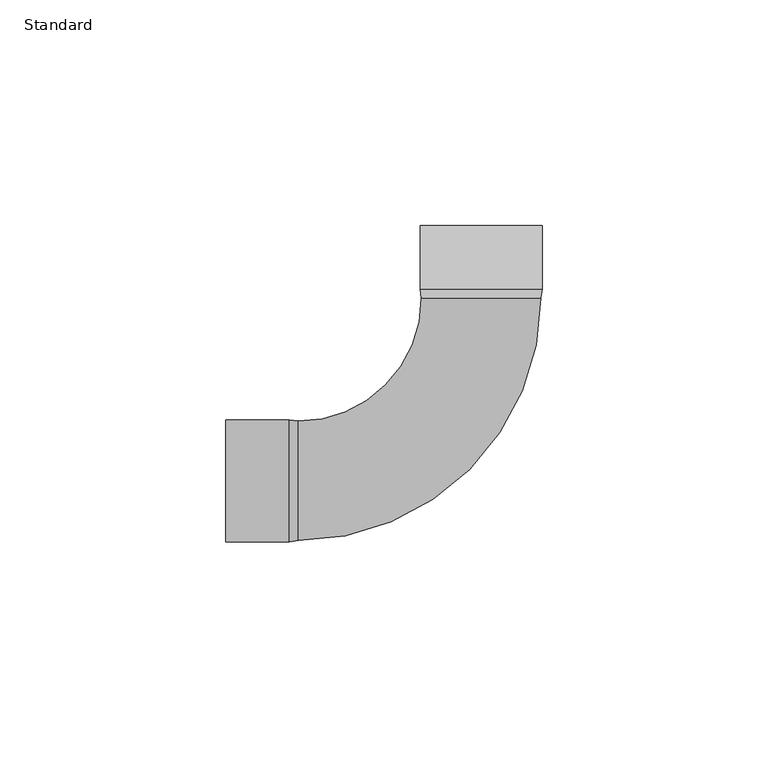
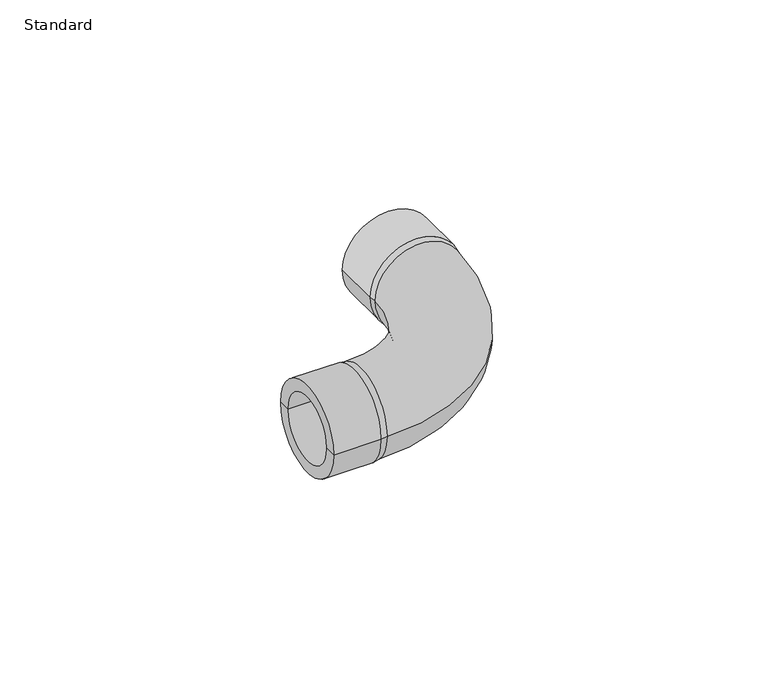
"""IFC4 building model written with IfcOpenShell, lengths in millimetres: pipe fitting geometry, Durapipe_PipeFitting_PVC_SR_Bend90deg : Standard."""

from ifc_helpers import new_model, si_unit, point, frame, origin, place, context, project, spatial, polyline, circle_curve, ellipse_curve, trimmed, source, transform, mapped, element, save
from ifc_brep_helpers import plane_surface, cylinder_surface, revolved_surface, advanced_brep


def standard_03295fe6(model_context):
    return source(origin(), model_context, "Body", "AdvancedBrep", [
        advanced_brep(
        [(13.5, 42.5, 0.0), (-13.5, 42.5, 0.0), (-13.5, 56.5, 0.0), (13.5, 56.5, 0.0), (13.2, 40.5, 0.0), (9.3338095, 40.5, -9.3338095), (0.0, 40.5, -13.2), (-9.3338095, 40.5, -9.3338095), (-13.2, 40.5, 0.0), (-9.3338095, 40.5, 9.3338095), (0.0, 40.5, 13.2), (9.3338095, 40.5, 9.3338095), (-10.0, 56.5, 0.0), (10.0, 56.5, 0.0), (-40.5, 13.2, 0.0), (-40.5, -13.2, 0.0), (-56.5, -10.0, 0.0), (-56.5, 10.0, 0.0), (-56.5, 13.5, 0.0), (-56.5, -13.5, 0.0), (-42.5, -13.5, 0.0), (-42.5, 13.5, 0.0), (-42.5, -10.0, 0.0), (-42.5, 10.0, 0.0), (-42.5, 0.0, 0.0), (10.0, 42.5, 0.0), (-10.0, 42.5, 0.0), (0.0, 42.5, 0.0)],
        [
            (0, 1, circle_curve(frame((0.0, 42.5, 0.0), z_axis=(0.0, 1.0, 0.0), x_axis=(-1.0, 0.0, 0.0)), 13.5)),
            (1, 2),
            (2, 3, circle_curve(frame((0.0, 56.5, 0.0), z_axis=(0.0, -1.0, 0.0), x_axis=(-1.0, 0.0, 0.0)), 13.5)),
            (3, 0),
            (1, 0, circle_curve(frame((0.0, 42.5, 0.0), z_axis=(0.0, 1.0, 0.0), x_axis=(-1.0, 0.0, 0.0)), 13.5)),
            (3, 2, circle_curve(frame((0.0, 56.5, 0.0), z_axis=(0.0, -1.0, 0.0), x_axis=(-1.0, 0.0, 0.0)), 13.5)),
            (0, 4),
            (4, 5, circle_curve(frame((0.0, 40.5, 0.0), z_axis=(0.0, 1.0, 0.0), x_axis=(-1.0, 0.0, 0.0)), 13.2)),
            (5, 6, circle_curve(frame((0.0, 40.5, 0.0), z_axis=(0.0, 1.0, 0.0), x_axis=(-1.0, 0.0, 0.0)), 13.2)),
            (6, 7, circle_curve(frame((0.0, 40.5, 0.0), z_axis=(0.0, 1.0, 0.0), x_axis=(-1.0, 0.0, 0.0)), 13.2)),
            (7, 8, circle_curve(frame((0.0, 40.5, 0.0), z_axis=(0.0, 1.0, 0.0), x_axis=(-1.0, 0.0, 0.0)), 13.2)),
            (8, 1),
            (8, 9, circle_curve(frame((0.0, 40.5, 0.0), z_axis=(0.0, 1.0, 0.0), x_axis=(-1.0, 0.0, 0.0)), 13.2)),
            (9, 10, circle_curve(frame((0.0, 40.5, 0.0), z_axis=(0.0, 1.0, 0.0), x_axis=(-1.0, 0.0, 0.0)), 13.2)),
            (10, 11, circle_curve(frame((0.0, 40.5, 0.0), z_axis=(0.0, 1.0, 0.0), x_axis=(-1.0, 0.0, 0.0)), 13.2)),
            (11, 4, circle_curve(frame((0.0, 40.5, 0.0), z_axis=(0.0, 1.0, 0.0), x_axis=(-1.0, 0.0, 0.0)), 13.2)),
            (2, 12),
            (12, 13, circle_curve(frame((0.0, 56.5, 0.0), z_axis=(0.0, -1.0, 0.0), x_axis=(-1.0, 0.0, 0.0)), 10.0)),
            (13, 3),
            (13, 12, circle_curve(frame((0.0, 56.5, 0.0), z_axis=(0.0, -1.0, 0.0), x_axis=(-1.0, 0.0, 0.0)), 10.0)),
            (8, 14, circle_curve(frame((-40.5, 40.5, 0.0), z_axis=(0.0, 0.0, -1.0), x_axis=(0.0, -1.0, 0.0)), 27.3)),
            (14, 15, circle_curve(frame((-40.5, 0.0, 0.0), z_axis=(1.0, 0.0, 0.0), x_axis=(0.0, 1.0, 0.0)), 13.2)),
            (15, 4, circle_curve(frame((-40.5, 40.5, 0.0), z_axis=(0.0, 0.0, 1.0), x_axis=(0.0, -1.0, 0.0)), 53.7)),
            (15, 14, circle_curve(frame((-40.5, 0.0, 0.0), z_axis=(1.0, 0.0, 0.0), x_axis=(0.0, 1.0, 0.0)), 13.2)),
            (16, 17, circle_curve(frame((-56.5, 0.0, 0.0), z_axis=(1.0, 0.0, 0.0), x_axis=(0.0, 1.0, 0.0)), 10.0)),
            (17, 18),
            (18, 19, circle_curve(frame((-56.5, 0.0, 0.0), z_axis=(-1.0, 0.0, 0.0), x_axis=(0.0, 1.0, 0.0)), 13.5)),
            (19, 16),
            (17, 16, circle_curve(frame((-56.5, 0.0, 0.0), z_axis=(1.0, 0.0, 0.0), x_axis=(0.0, 1.0, 0.0)), 10.0)),
            (19, 18, circle_curve(frame((-56.5, 0.0, 0.0), z_axis=(-1.0, 0.0, 0.0), x_axis=(0.0, 1.0, 0.0)), 13.5)),
            (20, 21, circle_curve(frame((-42.5, 0.0, 0.0), z_axis=(1.0, 0.0, 0.0), x_axis=(0.0, 1.0, 0.0)), 13.5)),
            (21, 14),
            (15, 20),
            (21, 20, circle_curve(frame((-42.5, 0.0, 0.0), z_axis=(1.0, 0.0, 0.0), x_axis=(0.0, 1.0, 0.0)), 13.5)),
            (18, 21),
            (20, 19),
            (16, 22),
            (22, 23, circle_curve(frame((-42.5, 0.0, 0.0), z_axis=(1.0, 0.0, 0.0), x_axis=(0.0, 1.0, 0.0)), 10.0)),
            (23, 17),
            (23, 22, circle_curve(frame((-42.5, 0.0, 0.0), z_axis=(1.0, 0.0, 0.0), x_axis=(0.0, 1.0, 0.0)), 10.0)),
            (22, 24),
            (24, 23),
            (25, 26, circle_curve(frame((0.0, 42.5, 0.0), z_axis=(0.0, 1.0, 0.0), x_axis=(-1.0, 0.0, 0.0)), 10.0)),
            (26, 27),
            (27, 25),
            (26, 25, circle_curve(frame((0.0, 42.5, 0.0), z_axis=(0.0, 1.0, 0.0), x_axis=(-1.0, 0.0, 0.0)), 10.0)),
            (12, 26),
            (25, 13),
        ],
        [
            cylinder_surface(frame((0.0, 1999.5, 0.0), z_axis=(0.0, -1.0, 0.0), x_axis=(-1.0, 0.0, 0.0)), 13.5),
            revolved_surface(polyline([(-13.5, 42.5, 0.0), (-13.2, 40.5, 0.0)]), (0.0, 1999.5, 0.0), (0.0, -1.0, 0.0)),
            plane_surface(frame((0.0, 56.5, 0.0), z_axis=(0.0, 1.0, 0.0), x_axis=(-1.0, 0.0, 0.0))),
            revolved_surface(trimmed(ellipse_curve(frame((-40.5, 0.0, 0.0), z_axis=(-1.0, 0.0, 0.0), x_axis=(0.0, 1.0, 0.0)), 13.2, 13.2), [point((-40.5, -13.2, 0.0))], [point((-40.5, 13.2, 0.0))], True, "CARTESIAN"), (-40.5, 40.5, 0.0), (0.0, 0.0, 1.0)),
            revolved_surface(trimmed(ellipse_curve(frame((-40.5, 0.0, 0.0), z_axis=(-1.0, 0.0, 0.0), x_axis=(0.0, 1.0, 0.0)), 13.2, 13.2), [point((-40.5, 13.2, 0.0))], [point((-40.5, -13.2, 0.0))], True, "CARTESIAN"), (-40.5, 40.5, 0.0), (0.0, 0.0, 1.0)),
            plane_surface(frame((-56.5, 0.0, 0.0), z_axis=(-1.0, 0.0, 0.0), x_axis=(0.0, 1.0, 0.0))),
            revolved_surface(polyline([(-40.5, 13.2, 0.0), (-42.5, 13.5, 0.0)]), (2000.5, 0.0, 0.0), (-1.0, 0.0, 0.0)),
            cylinder_surface(frame((2000.5, 0.0, 0.0), z_axis=(-1.0, 0.0, 0.0), x_axis=(0.0, 1.0, 0.0)), 13.5),
            revolved_surface(polyline([(-56.5, 10.0, 0.0), (-42.5, 10.0, 0.0)]), (2000.5, 0.0, 0.0), (-1.0, 0.0, 0.0)),
            plane_surface(frame((-42.5, 0.0, 0.0), z_axis=(-1.0, 0.0, 0.0), x_axis=(0.0, 1.0, 0.0))),
            plane_surface(frame((0.0, 42.5, 0.0), z_axis=(0.0, 1.0, 0.0), x_axis=(-1.0, 0.0, 0.0))),
            revolved_surface(polyline([(-10.0, 42.5, 0.0), (-10.0, 56.5, 0.0)]), (0.0, 1999.5, 0.0), (0.0, -1.0, 0.0)),
        ],
        [
            (0, [[1, 2, 3, 4]]),
            (0, [[-2, 5, -4, 6]]),
            (1, [[-1, 7, 8, 9, 10, 11, 12]]),
            (1, [[-5, -12, 13, 14, 15, 16, -7]]),
            (2, [[-3, 17, 18, 19]]),
            (2, [[-6, -19, 20, -17]]),
            (3, [[21, 22, 23, -16, -15, -14, -13]]),
            (4, [[-21, -11, -10, -9, -8, -23, 24]]),
            (5, [[25, 26, 27, 28]]),
            (5, [[-26, 29, -28, 30]]),
            (6, [[31, 32, -24, 33]]),
            (6, [[-32, 34, -33, -22]]),
            (7, [[-27, 35, -31, 36]]),
            (7, [[-30, -36, -34, -35]]),
            (8, [[-25, 37, 38, 39]]),
            (8, [[-29, -39, 40, -37]]),
            (9, [[-38, 41, 42]]),
            (9, [[-40, -42, -41]]),
            (10, [[43, 44, 45]]),
            (10, [[-44, 46, -45]]),
            (11, [[-18, 47, -43, 48]]),
            (11, [[-20, -48, -46, -47]]),
        ],
    ),
    ])


if __name__ == "__main__":
    model = new_model("IFC4")
    model_context = context("Model", 3, world=origin())
    ifc_project = project(units=[si_unit("LENGTHUNIT", "METRE", prefix="MILLI")], contexts=[model_context])
    site = spatial("IfcSite", under=ifc_project)
    building = spatial("IfcBuilding", under=site)
    placement = place(None, origin())
    standard_shape = standard_03295fe6(model_context)
    element("IfcPipeFitting", 1, ObjectType="Durapipe_PipeFitting_PVC_SR_Bend90deg : Standard", at=placement, inside=building, context=model_context, shape_type="MappedRepresentation", body=[
        mapped(standard_shape, transform((0.0, 0.0, 0.0), x_axis=(1.0, 0.0, 0.0), y_axis=(0.0, 1.0, 0.0), z_axis=(0.0, 0.0, 1.0))),
    ])
    save(model, "model.ifc")
